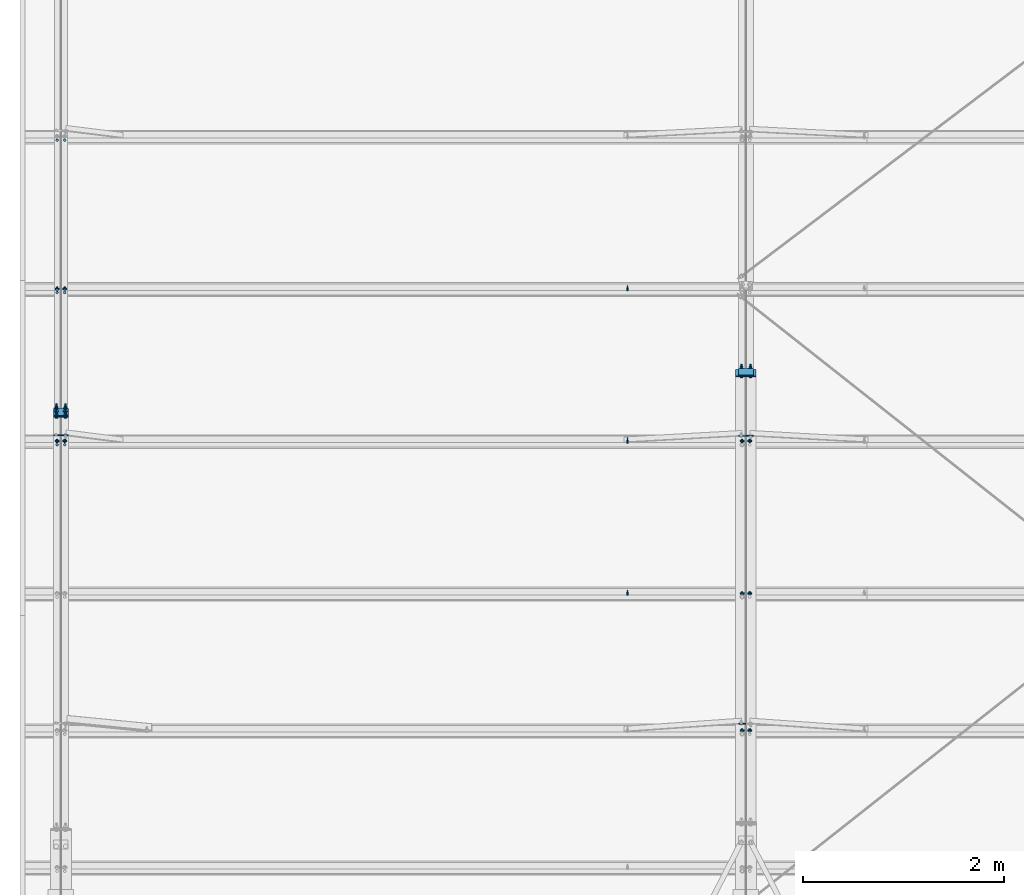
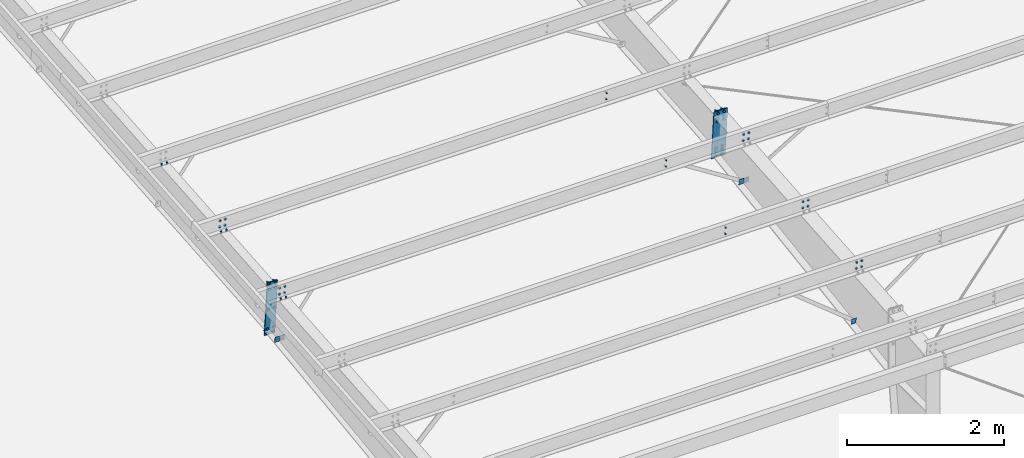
# One storey, part 64 of 185: 21 mechanical fasteners, 9 discrete accessories, 13 elements without a shape of their own.
"""IFC2X3 building model written with IfcOpenShell, lengths in millimetres."""

from ifc_helpers import new_model, si_unit, frame, origin_with_axes, origin_2d_with_axis, place, context, subcontext, project, spatial, polyline, rectangle, circle, outline, extrude, source, transform, mapped, material, type_object, element, aggregate, save


model = new_model("IFC2X3")

# Units and contexts
model_context = context("Model", 3, precision=1e-05, world=origin_with_axes())
body_context = subcontext(model_context, "Body", "Model", "MODEL_VIEW")
ifc_project = project(units=[si_unit("LENGTHUNIT", "METRE", prefix="MILLI"), si_unit("AREAUNIT", "SQUARE_METRE"), si_unit("VOLUMEUNIT", "CUBIC_METRE"), si_unit("MASSUNIT", "GRAM", prefix="KILO"), si_unit("TIMEUNIT", "SECOND"), si_unit("PLANEANGLEUNIT", "RADIAN"), si_unit("SOLIDANGLEUNIT", "STERADIAN"), si_unit("THERMODYNAMICTEMPERATUREUNIT", "DEGREE_CELSIUS"), si_unit("LUMINOUSINTENSITYUNIT", "LUMEN")], contexts=[model_context])

# Site, building, storey
site_placement = place(None, origin_with_axes())
site = spatial("IfcSite", under=ifc_project, at=site_placement, Name="Undefined", CompositionType="ELEMENT")
building_placement = place(site_placement, origin_with_axes())
building = spatial("IfcBuilding", under=site, at=building_placement, Name="Undefined", CompositionType="ELEMENT")
storey_placement = place(building_placement, origin_with_axes())
storey = spatial("IfcBuildingStorey", under=building, at=storey_placement, Name="Undefined", CompositionType="ELEMENT", Elevation=0.0)

# Assembly, mechanical fasteners
assembly_1_placement = place(storey_placement, origin_with_axes())
assembly_1 = element("IfcElementAssembly", 1, at=assembly_1_placement, inside=storey, Name="Steel Assembly", AssemblyPlace="NOTDEFINED", PredefinedType="RIGID_FRAME")
ifc_material_1 = material(Name="Undefined")
discrete_accessory_type_1 = type_object("IfcDiscreteAccessoryType", Name="Bolt assembly")
shared_shape_1 = source(origin_with_axes(), body_context, "Body", "SweptSolid", [
    extrude(circle(Radius=7.14374971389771, at=origin_2d_with_axis()), frame((0.0, -1.59000001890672, 0.0), z_axis=(0.0, 1.0, 0.0), x_axis=(1.0, 0.0, 0.0)), (0.0, 0.0, 1.0), 3.3),
    extrude(circle(Radius=13.4937496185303, at=origin_2d_with_axis()), frame((0.0, -5.5587500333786, 0.0), z_axis=(0.0, 1.0, 0.0), x_axis=(1.0, 0.0, 0.0)), (0.0, 0.0, 1.0), 4.0),
    extrude(circle(Radius=22.2250003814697, at=origin_2d_with_axis()), frame((0.0, 1.5900000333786, 0.0), z_axis=(0.0, 1.0, 0.0), x_axis=(1.0, 0.0, 0.0)), (0.0, 0.0, 1.0), 7.9),
    extrude(outline(polyline([(12.8316099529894, 0.0), (6.4158049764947, 11.1125001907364), (-6.4158049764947, 11.1125001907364), (-12.8316099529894, 0.0), (-6.4158049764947, -11.1125001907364), (6.4158049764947, -11.1125001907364), (12.8316099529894, 0.0)])), frame((0.0, 9.5275000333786, 0.0), z_axis=(0.0, 1.0, 0.0), x_axis=(1.0, 0.0, 0.0)), (0.0, 0.0, 1.0), 12.3),
])
mechanical_fastener_1_placement = place(assembly_1_placement, frame((444.500000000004, 6590.05757436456, 6594.19538193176), z_axis=(1.0, 0.0, 0.0), x_axis=(0.0, 0.0830454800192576, -0.996545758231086)))
mechanical_fastener_1 = element("IfcMechanicalFastener", 2, at=mechanical_fastener_1_placement, type_object=discrete_accessory_type_1, material=ifc_material_1, Name="Bolt assembly", NominalDiameter=12.6999998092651, NominalLength=38.0999984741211, context=body_context, shape_type="MappedRepresentation", body=[
    mapped(shared_shape_1, transform((0.0, 0.0, 0.0))),
    mapped(shared_shape_1, transform((101.599998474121, 0.0, 0.0))),
])
mechanical_fastener_2_placement = place(assembly_1_placement, frame((368.300000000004, 6590.05757436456, 6594.19538193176), z_axis=(1.0, 0.0, 0.0), x_axis=(0.0, 0.0830454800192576, -0.996545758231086)))
mechanical_fastener_2 = element("IfcMechanicalFastener", 3, at=mechanical_fastener_2_placement, type_object=discrete_accessory_type_1, material=ifc_material_1, Name="Bolt assembly", NominalDiameter=12.6999998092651, NominalLength=38.0999984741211, context=body_context, shape_type="MappedRepresentation", body=[
    mapped(shared_shape_1, transform((0.0, 0.0, 0.0))),
    mapped(shared_shape_1, transform((101.599998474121, 0.0, 0.0))),
])

assembly_2_placement = place(storey_placement, origin_with_axes())
assembly_2 = element("IfcElementAssembly", 4, at=assembly_2_placement, inside=storey, Name="Steel Assembly", AssemblyPlace="NOTDEFINED", PredefinedType="RIGID_FRAME")
mechanical_fastener_3_placement = place(assembly_2_placement, frame((368.300000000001, 5071.32183881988, 6467.63407037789), z_axis=(1.0, 0.0, 0.0), x_axis=(0.0, 0.0830454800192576, -0.996545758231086)))
mechanical_fastener_3 = element("IfcMechanicalFastener", 5, at=mechanical_fastener_3_placement, type_object=discrete_accessory_type_1, material=ifc_material_1, Name="Bolt assembly", NominalDiameter=12.6999998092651, NominalLength=38.0999984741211, context=body_context, shape_type="MappedRepresentation", body=[
    mapped(shared_shape_1, transform((0.0, 0.0, 0.0))),
    mapped(shared_shape_1, transform((101.599998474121, 0.0, 0.0))),
])
mechanical_fastener_4_placement = place(assembly_2_placement, frame((444.500000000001, 5071.32183881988, 6467.63407037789), z_axis=(1.0, 0.0, 0.0), x_axis=(0.0, 0.0830454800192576, -0.996545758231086)))
mechanical_fastener_4 = element("IfcMechanicalFastener", 6, at=mechanical_fastener_4_placement, type_object=discrete_accessory_type_1, material=ifc_material_1, Name="Bolt assembly", NominalDiameter=12.6999998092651, NominalLength=38.0999984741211, context=body_context, shape_type="MappedRepresentation", body=[
    mapped(shared_shape_1, transform((0.0, 0.0, 0.0))),
    mapped(shared_shape_1, transform((101.599998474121, 0.0, 0.0))),
])
mechanical_fastener_5_placement = place(assembly_2_placement, frame((7277.1, 5071.32183882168, 6467.63407037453), z_axis=(1.0, 0.0, 0.0), x_axis=(0.0, 0.0830454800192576, -0.996545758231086)))
mechanical_fastener_5 = element("IfcMechanicalFastener", 7, at=mechanical_fastener_5_placement, type_object=discrete_accessory_type_1, material=ifc_material_1, Name="Bolt assembly", NominalDiameter=12.6999998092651, NominalLength=38.0999984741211, context=body_context, shape_type="MappedRepresentation", body=[
    mapped(shared_shape_1, transform((0.0, 0.0, 0.0))),
    mapped(shared_shape_1, transform((101.599998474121, 0.0, 0.0))),
])

# Assembly, mechanical fastener
assembly_3_placement = place(storey_placement, origin_with_axes())
assembly_3 = element("IfcElementAssembly", 8, at=assembly_3_placement, inside=storey, Name="Steel Assembly", AssemblyPlace="NOTDEFINED", PredefinedType="RIGID_FRAME")
mechanical_fastener_6_placement = place(assembly_3_placement, frame((7200.9, 5071.32183882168, 6467.63407037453), z_axis=(1.0, 0.0, 0.0), x_axis=(0.0, 0.0830454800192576, -0.996545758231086)))
mechanical_fastener_6 = element("IfcMechanicalFastener", 9, at=mechanical_fastener_6_placement, type_object=discrete_accessory_type_1, material=ifc_material_1, Name="Bolt assembly", NominalDiameter=12.6999998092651, NominalLength=38.0999984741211, context=body_context, shape_type="MappedRepresentation", body=[
    mapped(shared_shape_1, transform((0.0, 0.0, 0.0))),
    mapped(shared_shape_1, transform((101.599998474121, 0.0, 0.0))),
])

assembly_4_placement = place(storey_placement, origin_with_axes())
assembly_4 = element("IfcElementAssembly", 10, at=assembly_4_placement, inside=storey, Name="Steel Assembly", AssemblyPlace="NOTDEFINED", PredefinedType="RIGID_FRAME")
mechanical_fastener_7_placement = place(assembly_4_placement, frame((7277.1, 3552.58610327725, 6341.07275882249), z_axis=(1.0, 0.0, 0.0), x_axis=(0.0, 0.0830454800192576, -0.996545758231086)))
mechanical_fastener_7 = element("IfcMechanicalFastener", 11, at=mechanical_fastener_7_placement, type_object=discrete_accessory_type_1, material=ifc_material_1, Name="Bolt assembly", NominalDiameter=12.6999998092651, NominalLength=38.0999984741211, context=body_context, shape_type="MappedRepresentation", body=[
    mapped(shared_shape_1, transform((0.0, 0.0, 0.0))),
    mapped(shared_shape_1, transform((101.599998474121, 0.0, 0.0))),
])
aggregate(assembly_4, [mechanical_fastener_7])

assembly_5_placement = place(storey_placement, origin_with_axes())
assembly_5 = element("IfcElementAssembly", 12, at=assembly_5_placement, inside=storey, Name="Steel Assembly", AssemblyPlace="NOTDEFINED", PredefinedType="RIGID_FRAME")
mechanical_fastener_8_placement = place(assembly_5_placement, frame((7200.9, 3552.58610327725, 6341.07275882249), z_axis=(1.0, 0.0, 0.0), x_axis=(0.0, 0.0830454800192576, -0.996545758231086)))
mechanical_fastener_8 = element("IfcMechanicalFastener", 13, at=mechanical_fastener_8_placement, type_object=discrete_accessory_type_1, material=ifc_material_1, Name="Bolt assembly", NominalDiameter=12.6999998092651, NominalLength=38.0999984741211, context=body_context, shape_type="MappedRepresentation", body=[
    mapped(shared_shape_1, transform((0.0, 0.0, 0.0))),
    mapped(shared_shape_1, transform((101.599998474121, 0.0, 0.0))),
])

assembly_6_placement = place(storey_placement, origin_with_axes())
assembly_6 = element("IfcElementAssembly", 14, at=assembly_6_placement, inside=storey, Name="Steel Assembly", AssemblyPlace="NOTDEFINED", PredefinedType="RIGID_FRAME")
mechanical_fastener_9_placement = place(assembly_6_placement, frame((7277.1, 2185.7239412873, 6227.16757842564), z_axis=(1.0, 0.0, 0.0), x_axis=(0.0, 0.0830454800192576, -0.996545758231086)))
mechanical_fastener_9 = element("IfcMechanicalFastener", 15, at=mechanical_fastener_9_placement, type_object=discrete_accessory_type_1, material=ifc_material_1, Name="Bolt assembly", NominalDiameter=12.6999998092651, NominalLength=38.0999984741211, context=body_context, shape_type="MappedRepresentation", body=[
    mapped(shared_shape_1, transform((0.0, 0.0, 0.0))),
    mapped(shared_shape_1, transform((101.599998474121, 0.0, 0.0))),
])
aggregate(assembly_6, [mechanical_fastener_9])

assembly_7_placement = place(storey_placement, origin_with_axes())
assembly_7 = element("IfcElementAssembly", 16, at=assembly_7_placement, inside=storey, Name="Steel Assembly", AssemblyPlace="NOTDEFINED", PredefinedType="RIGID_FRAME")
mechanical_fastener_10_placement = place(assembly_7_placement, frame((7200.9, 2185.7239412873, 6227.16757842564), z_axis=(1.0, 0.0, 0.0), x_axis=(0.0, 0.0830454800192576, -0.996545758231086)))
mechanical_fastener_10 = element("IfcMechanicalFastener", 17, at=mechanical_fastener_10_placement, type_object=discrete_accessory_type_1, material=ifc_material_1, Name="Bolt assembly", NominalDiameter=12.6999998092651, NominalLength=38.0999984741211, context=body_context, shape_type="MappedRepresentation", body=[
    mapped(shared_shape_1, transform((0.0, 0.0, 0.0))),
    mapped(shared_shape_1, transform((101.599998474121, 0.0, 0.0))),
])
aggregate(assembly_7, [mechanical_fastener_10])

# Assembly, discrete accessories
assembly_8_placement = place(storey_placement, origin_with_axes())
assembly_8 = element("IfcElementAssembly", 18, at=assembly_8_placement, inside=storey, Name="Steel Assembly", AssemblyPlace="NOTDEFINED", PredefinedType="RIGID_FRAME")
ifc_material_2 = material(Name="STEEL/55")
discrete_accessory_type_2 = type_object("IfcDiscreteAccessoryType", Name="FLANGE BRACE FLIP")
discrete_accessory_1_placement = place(assembly_8_placement, frame((408.781250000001, 5139.3042512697, 5631.27807732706), z_axis=(0.0, -0.0830454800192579, 0.996545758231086), x_axis=(1.0, 0.0, 0.0)))
discrete_accessory_1 = element("IfcDiscreteAccessory", 19, at=discrete_accessory_1_placement, type_object=discrete_accessory_type_2, material=ifc_material_2, Name="FLANGE BRACE FLIP", ObjectType="PL1/8\"X2 3/4\"", context=body_context, shape_type="SweptSolid", body=[
    extrude(rectangle(XDim=3.416, YDim=85.725, at=origin_2d_with_axis()), frame((69.8499999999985, 0.0, 0.0), z_axis=(-1.0, 0.0, 0.0), x_axis=(0.0, -1.0, 0.0)), (0.0, 0.0, 1.0), 69.9),
])
discrete_accessory_2_placement = place(assembly_8_placement, frame((404.018750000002, 5139.3042512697, 5631.27807732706), z_axis=(0.0, -0.0830454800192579, 0.996545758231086), x_axis=(-1.0, 0.0, 0.0)))
discrete_accessory_2 = element("IfcDiscreteAccessory", 20, at=discrete_accessory_2_placement, type_object=discrete_accessory_type_2, material=ifc_material_2, Name="FLANGE BRACE FLIP", ObjectType="PL1/8\"X2 3/4\"", context=body_context, shape_type="SweptSolid", body=[
    extrude(rectangle(XDim=3.416, YDim=85.725, at=origin_2d_with_axis()), frame((69.8499999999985, 0.0, 0.0), z_axis=(-1.0, 0.0, 0.0), x_axis=(0.0, -1.0, 0.0)), (0.0, 0.0, 1.0), 69.9),
])

assembly_9_placement = place(storey_placement, origin_with_axes())
assembly_9 = element("IfcElementAssembly", 21, at=assembly_9_placement, inside=storey, Name="Steel Assembly", AssemblyPlace="NOTDEFINED", PredefinedType="RIGID_FRAME")
discrete_accessory_3_placement = place(assembly_9_placement, frame((7241.381, 5133.65232140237, 5699.10123572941), z_axis=(0.0, -0.0830454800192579, 0.996545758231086), x_axis=(1.0, 0.0, 0.0)))
discrete_accessory_3 = element("IfcDiscreteAccessory", 22, at=discrete_accessory_3_placement, type_object=discrete_accessory_type_2, material=ifc_material_2, Name="FLANGE BRACE FLIP", ObjectType="PL1/8\"X2 3/4\"", context=body_context, shape_type="SweptSolid", body=[
    extrude(rectangle(XDim=3.416, YDim=85.725, at=origin_2d_with_axis()), frame((69.8499999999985, 0.0, 0.0), z_axis=(-1.0, 0.0, 0.0), x_axis=(0.0, -1.0, 0.0)), (0.0, 0.0, 1.0), 69.9),
])
discrete_accessory_4_placement = place(assembly_9_placement, frame((7236.619, 5133.65232140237, 5699.10123572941), z_axis=(0.0, -0.0830454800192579, 0.996545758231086), x_axis=(-1.0, 0.0, 0.0)))
discrete_accessory_4 = element("IfcDiscreteAccessory", 23, at=discrete_accessory_4_placement, type_object=discrete_accessory_type_2, material=ifc_material_2, Name="FLANGE BRACE FLIP", ObjectType="PL1/8\"X2 3/4\"", context=body_context, shape_type="SweptSolid", body=[
    extrude(rectangle(XDim=3.416, YDim=85.725, at=origin_2d_with_axis()), frame((69.8499999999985, 0.0, 0.0), z_axis=(-1.0, 0.0, 0.0), x_axis=(0.0, -1.0, 0.0)), (0.0, 0.0, 1.0), 69.9),
])
discrete_accessory_5_placement = place(assembly_9_placement, frame((7236.619, 2264.17630960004, 5265.17211501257), z_axis=(0.0, -0.0830454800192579, 0.996545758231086), x_axis=(-1.0, 0.0, 0.0)))
discrete_accessory_5 = element("IfcDiscreteAccessory", 24, at=discrete_accessory_5_placement, type_object=discrete_accessory_type_2, material=ifc_material_2, Name="FLANGE BRACE FLIP", ObjectType="PL1/8\"X2 3/4\"", context=body_context, shape_type="SweptSolid", body=[
    extrude(rectangle(XDim=3.416, YDim=85.725, at=origin_2d_with_axis()), frame((69.8499999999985, 0.0, 0.0), z_axis=(-1.0, 0.0, 0.0), x_axis=(0.0, -1.0, 0.0)), (0.0, 0.0, 1.0), 69.9),
])

# Assembly, mechanical fastener
assembly_10_placement = place(storey_placement, origin_with_axes())
assembly_10 = element("IfcElementAssembly", 25, at=assembly_10_placement, inside=storey, Name="Steel Assembly", AssemblyPlace="NOTDEFINED", PredefinedType="RIGID_FRAME")
shared_shape_2 = source(origin_with_axes(), body_context, "Body", "SweptSolid", [
    extrude(circle(Radius=7.14374971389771, at=origin_2d_with_axis()), frame((0.0, -1.69000003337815, 0.0), z_axis=(0.0, 1.0, 0.0), x_axis=(1.0, 0.0, 0.0)), (0.0, 0.0, 1.0), 3.3),
    extrude(circle(Radius=7.14374971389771, at=origin_2d_with_axis()), frame((0.0, -1.4900000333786, 0.0), z_axis=(0.0, 1.0, 0.0), x_axis=(1.0, 0.0, 0.0)), (0.0, 0.0, 1.0), 3.2),
    extrude(outline(polyline([(10.9985221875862, 0.0), (5.4992610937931, 9.52499961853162), (-5.4992610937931, 9.52499961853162), (-10.9985221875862, 0.0), (-5.4992610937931, -9.52499961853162), (5.4992610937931, -9.52499961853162), (10.9985221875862, 0.0)])), frame((0.0, -11.1149996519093, 0.0), z_axis=(0.0, 1.0, 0.0), x_axis=(1.0, 0.0, 0.0)), (0.0, 0.0, 1.0), 9.5),
    extrude(circle(Radius=6.34999990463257, at=origin_2d_with_axis()), frame((0.0, -1.59000001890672, 0.0), z_axis=(0.0, 1.0, 0.0), x_axis=(1.0, 0.0, 0.0)), (0.0, 0.0, 1.0), 38.1),
    extrude(outline(polyline([(12.8316099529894, 0.0), (6.4158049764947, 11.1125001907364), (-6.4158049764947, 11.1125001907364), (-12.8316099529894, 0.0), (-6.4158049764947, -11.1125001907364), (6.4158049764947, -11.1125001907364), (12.8316099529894, 0.0)])), frame((0.0, 1.5900000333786, 0.0), z_axis=(0.0, 1.0, 0.0), x_axis=(1.0, 0.0, 0.0)), (0.0, 0.0, 1.0), 12.3),
])
mechanical_fastener_11_placement = place(assembly_10_placement, frame((6057.9, 6590.05757436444, 6594.19538192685), z_axis=(1.0, 0.0, 0.0), x_axis=(0.0, 0.0830454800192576, -0.996545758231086)))
mechanical_fastener_11 = element("IfcMechanicalFastener", 26, at=mechanical_fastener_11_placement, type_object=discrete_accessory_type_1, material=ifc_material_1, Name="Bolt assembly", NominalDiameter=12.6999998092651, NominalLength=38.0999984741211, context=body_context, shape_type="MappedRepresentation", body=[
    mapped(shared_shape_2, transform((0.0, 0.0, 0.0))),
    mapped(shared_shape_2, transform((101.599998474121, 0.0, 0.0))),
])
aggregate(assembly_10, [mechanical_fastener_11])

# Mechanical fastener
mechanical_fastener_12_placement = place(assembly_3_placement, frame((6057.9, 5071.32183882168, 6467.63407037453), z_axis=(1.0, 0.0, 0.0), x_axis=(0.0, 0.0830454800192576, -0.996545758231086)))
mechanical_fastener_12 = element("IfcMechanicalFastener", 27, at=mechanical_fastener_12_placement, type_object=discrete_accessory_type_1, material=ifc_material_1, Name="Bolt assembly", NominalDiameter=12.6999998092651, NominalLength=38.0999984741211, context=body_context, shape_type="MappedRepresentation", body=[
    mapped(shared_shape_2, transform((0.0, 0.0, 0.0))),
    mapped(shared_shape_2, transform((101.599998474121, 0.0, 0.0))),
])

aggregate(assembly_3, [mechanical_fastener_6, mechanical_fastener_12])

mechanical_fastener_13_placement = place(assembly_5_placement, frame((6057.9, 3552.58610327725, 6341.07275882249), z_axis=(1.0, 0.0, 0.0), x_axis=(0.0, 0.0830454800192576, -0.996545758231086)))
mechanical_fastener_13 = element("IfcMechanicalFastener", 28, at=mechanical_fastener_13_placement, type_object=discrete_accessory_type_1, material=ifc_material_1, Name="Bolt assembly", NominalDiameter=12.6999998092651, NominalLength=38.0999984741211, context=body_context, shape_type="MappedRepresentation", body=[
    mapped(shared_shape_2, transform((0.0, 0.0, 0.0))),
    mapped(shared_shape_2, transform((101.599998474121, 0.0, 0.0))),
])

aggregate(assembly_5, [mechanical_fastener_8, mechanical_fastener_13])

shared_shape_3 = source(origin_with_axes(), body_context, "Body", "SweptSolid", [
    extrude(circle(Radius=7.14374971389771, at=origin_2d_with_axis()), frame((0.0, -1.68991444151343, 0.0), z_axis=(0.0, 1.0, 0.0), x_axis=(1.0, 0.0, 0.0)), (0.0, 0.0, 1.0), 8.0),
    extrude(circle(Radius=7.14374971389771, at=origin_2d_with_axis()), frame((0.0, -3.08000006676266, 0.0), z_axis=(0.0, 1.0, 0.0), x_axis=(1.0, 0.0, 0.0)), (0.0, 0.0, 1.0), 3.2),
    extrude(outline(polyline([(10.9985221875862, 0.0), (5.4992610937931, 9.52499961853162), (-5.4992610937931, 9.52499961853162), (-10.9985221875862, 0.0), (-5.4992610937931, -9.52499961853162), (5.4992610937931, -9.52499961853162), (10.9985221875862, 0.0)])), frame((0.0, -16.6737496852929, 0.0), z_axis=(0.0, 1.0, 0.0), x_axis=(1.0, 0.0, 0.0)), (0.0, 0.0, 1.0), 9.5),
    extrude(circle(Radius=6.34999990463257, at=origin_2d_with_axis()), frame((0.0, -7.14875006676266, 0.0), z_axis=(0.0, 1.0, 0.0), x_axis=(1.0, 0.0, 0.0)), (0.0, 0.0, 1.0), 38.1),
    extrude(circle(Radius=13.4937496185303, at=origin_2d_with_axis()), frame((0.0, -7.14875006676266, 0.0), z_axis=(0.0, 1.0, 0.0), x_axis=(1.0, 0.0, 0.0)), (0.0, 0.0, 1.0), 4.0),
    extrude(outline(polyline([(12.8316099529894, 0.0), (6.4158049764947, 11.1125001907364), (-6.4158049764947, 11.1125001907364), (-12.8316099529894, 0.0), (-6.4158049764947, -11.1125001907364), (6.4158049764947, -11.1125001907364), (12.8316099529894, 0.0)])), frame((0.0, 6.28408555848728, 0.0), z_axis=(0.0, 1.0, 0.0), x_axis=(1.0, 0.0, 0.0)), (0.0, 0.0, 1.0), 12.3),
])
mechanical_fastener_14_placement = place(assembly_2_placement, frame((406.400000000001, 5046.00957656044, 6312.59646403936), z_axis=(1.0, 0.0, 0.0), x_axis=(0.0, -0.996545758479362, -0.0830454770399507)))
mechanical_fastener_14 = element("IfcMechanicalFastener", 29, at=mechanical_fastener_14_placement, type_object=discrete_accessory_type_1, material=ifc_material_1, Name="Bolt assembly", NominalDiameter=12.6999998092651, NominalLength=38.0999984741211, context=body_context, shape_type="MappedRepresentation", body=[
    mapped(shared_shape_3, transform((0.0, 0.0, -38.0999984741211))),
    mapped(shared_shape_3, transform((0.0, 0.0, 38.0999984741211))),
])

aggregate(assembly_2, [mechanical_fastener_14, mechanical_fastener_3, mechanical_fastener_4, mechanical_fastener_5])

shared_shape_4 = source(origin_with_axes(), body_context, "Body", "SweptSolid", [
    extrude(circle(Radius=10.3187494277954, at=origin_2d_with_axis()), frame((0.0, -0.1, 0.0), z_axis=(0.0, 1.0, 0.0), x_axis=(1.0, 0.0, 0.0)), (0.0, 0.0, 1.0), 9.6),
    extrude(circle(Radius=10.3187494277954, at=origin_2d_with_axis()), frame((0.0, -9.55200000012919, 0.0), z_axis=(0.0, 1.0, 0.0), x_axis=(1.0, 0.0, 0.0)), (0.0, 0.0, 1.0), 9.7),
    extrude(outline(polyline([(18.3308710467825, 0.0), (9.16543552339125, 15.8750000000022), (-9.16543552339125, 15.8750000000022), (-18.3308710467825, 0.0), (-9.16543552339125, -15.8750000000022), (9.16543552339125, -15.8750000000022), (18.3308710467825, 0.0)])), frame((0.0, -21.5582500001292, 0.0), z_axis=(0.0, 1.0, 0.0), x_axis=(1.0, 0.0, 0.0)), (0.0, 0.0, 1.0), 11.9),
    extrude(circle(Radius=9.52499961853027, at=origin_2d_with_axis()), frame((0.0, -9.65200000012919, 0.0), z_axis=(0.0, 1.0, 0.0), x_axis=(1.0, 0.0, 0.0)), (0.0, 0.0, 1.0), 69.8),
    extrude(circle(Radius=22.2250003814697, at=origin_2d_with_axis()), frame((0.0, 9.52499999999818, 0.0), z_axis=(0.0, 1.0, 0.0), x_axis=(1.0, 0.0, 0.0)), (0.0, 0.0, 1.0), 7.9),
    extrude(outline(polyline([(18.3308710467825, 0.0), (9.16543552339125, 15.8750000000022), (-9.16543552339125, 15.8750000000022), (-18.3308710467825, 0.0), (-9.16543552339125, -15.8750000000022), (9.16543552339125, -15.8750000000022), (18.3308710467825, 0.0)])), frame((0.0, 17.4624999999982, 0.0), z_axis=(0.0, 1.0, 0.0), x_axis=(1.0, 0.0, 0.0)), (0.0, 0.0, 1.0), 19.0),
])
mechanical_fastener_15_placement = place(assembly_8_placement, frame((406.400000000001, 5396.76762445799, 5577.18504530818), z_axis=(-1.0, 0.0, 0.0), x_axis=(0.0, -0.0830454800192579, 0.996545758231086)))
mechanical_fastener_15 = element("IfcMechanicalFastener", 30, at=mechanical_fastener_15_placement, type_object=discrete_accessory_type_1, material=ifc_material_1, Name="Bolt assembly", NominalDiameter=19.0499992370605, NominalLength=69.8499984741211, context=body_context, shape_type="MappedRepresentation", body=[
    mapped(shared_shape_4, transform((0.0, 0.0, -44.4500007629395))),
    mapped(shared_shape_4, transform((76.1999969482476, 0.0, -44.4500007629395))),
    mapped(shared_shape_4, transform((0.0, 0.0, 44.4500007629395))),
    mapped(shared_shape_4, transform((76.1999969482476, 0.0, 44.4500007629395))),
])

mechanical_fastener_16_placement = place(assembly_8_placement, frame((406.400000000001, 5330.32293589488, 6374.5213064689), z_axis=(1.0, 0.0, 0.0), x_axis=(0.0, 0.0830454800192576, -0.996545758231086)))
mechanical_fastener_16 = element("IfcMechanicalFastener", 31, at=mechanical_fastener_16_placement, type_object=discrete_accessory_type_1, material=ifc_material_1, Name="Bolt assembly", NominalDiameter=19.0499992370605, NominalLength=69.8499984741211, context=body_context, shape_type="MappedRepresentation", body=[
    mapped(shared_shape_4, transform((0.0, 0.0, -44.4500007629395))),
    mapped(shared_shape_4, transform((76.1999969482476, 0.0, -44.4500007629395))),
    mapped(shared_shape_4, transform((0.0, 0.0, 44.4500007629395))),
    mapped(shared_shape_4, transform((76.1999969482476, 0.0, 44.4500007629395))),
])

shared_shape_5 = source(origin_with_axes(), body_context, "Body", "SweptSolid", [
    extrude(circle(Radius=10.3187494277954, at=origin_2d_with_axis()), frame((0.0, -0.0856426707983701, 0.0), z_axis=(0.0, 1.0, 0.0), x_axis=(1.0, 0.0, 0.0)), (0.0, 0.0, 1.0), 9.6),
    extrude(circle(Radius=10.3187494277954, at=origin_2d_with_axis()), frame((0.0, -9.53764267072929, 0.0), z_axis=(0.0, 1.0, 0.0), x_axis=(1.0, 0.0, 0.0)), (0.0, 0.0, 1.0), 9.7),
    extrude(outline(polyline([(18.3308710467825, 0.0), (9.16543552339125, 15.8750000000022), (-9.16543552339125, 15.8750000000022), (-18.3308710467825, 0.0), (-9.16543552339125, -15.8750000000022), (9.16543552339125, -15.8750000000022), (18.3308710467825, 0.0)])), frame((0.0, -21.5438926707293, 0.0), z_axis=(0.0, 1.0, 0.0), x_axis=(1.0, 0.0, 0.0)), (0.0, 0.0, 1.0), 11.9),
    extrude(circle(Radius=9.52499961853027, at=origin_2d_with_axis()), frame((0.0, -9.63764267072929, 0.0), z_axis=(0.0, 1.0, 0.0), x_axis=(1.0, 0.0, 0.0)), (0.0, 0.0, 1.0), 69.8),
    extrude(circle(Radius=22.2250003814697, at=origin_2d_with_axis()), frame((0.0, 9.53935732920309, 0.0), z_axis=(0.0, 1.0, 0.0), x_axis=(1.0, 0.0, 0.0)), (0.0, 0.0, 1.0), 7.9),
    extrude(outline(polyline([(18.3308710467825, 0.0), (9.16543552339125, 15.8750000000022), (-9.16543552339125, 15.8750000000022), (-18.3308710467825, 0.0), (-9.16543552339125, -15.8750000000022), (9.16543552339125, -15.8750000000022), (18.3308710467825, 0.0)])), frame((0.0, 17.4768573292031, 0.0), z_axis=(0.0, 1.0, 0.0), x_axis=(1.0, 0.0, 0.0)), (0.0, 0.0, 1.0), 19.0),
])
mechanical_fastener_17_placement = place(assembly_8_placement, frame((406.400000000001, 5363.53097244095, 5975.85198357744), z_axis=(1.0, 0.0, 0.0), x_axis=(0.0, 0.0830454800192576, -0.996545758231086)))
mechanical_fastener_17 = element("IfcMechanicalFastener", 32, at=mechanical_fastener_17_placement, type_object=discrete_accessory_type_1, material=ifc_material_1, Name="Bolt assembly", NominalDiameter=19.0499992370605, NominalLength=69.8499984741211, context=body_context, shape_type="MappedRepresentation", body=[
    mapped(shared_shape_5, transform((0.0, 0.0, -44.4500007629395))),
    mapped(shared_shape_5, transform((0.0, 0.0, 44.4500007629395))),
])

# Assembly, mechanical fastener
assembly_11_placement = place(storey_placement, origin_with_axes())
assembly_11 = element("IfcElementAssembly", 33, at=assembly_11_placement, inside=storey, Name="Steel Assembly", AssemblyPlace="NOTDEFINED", PredefinedType="RIGID_FRAME")
shared_shape_6 = source(origin_with_axes(), body_context, "Body", "SweptSolid", [
    extrude(circle(Radius=7.14374971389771, at=origin_2d_with_axis()), frame((0.0, -0.1, 0.0), z_axis=(0.0, 1.0, 0.0), x_axis=(1.0, 0.0, 0.0)), (0.0, 0.0, 1.0), 6.5),
    extrude(circle(Radius=7.14374971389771, at=origin_2d_with_axis()), frame((0.0, -3.08000006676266, 0.0), z_axis=(0.0, 1.0, 0.0), x_axis=(1.0, 0.0, 0.0)), (0.0, 0.0, 1.0), 3.2),
    extrude(outline(polyline([(10.9985221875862, 0.0), (5.4992610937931, 9.52499961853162), (-5.4992610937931, 9.52499961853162), (-10.9985221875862, 0.0), (-5.4992610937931, -9.52499961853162), (5.4992610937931, -9.52499961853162), (10.9985221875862, 0.0)])), frame((0.0, -16.6737496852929, 0.0), z_axis=(0.0, 1.0, 0.0), x_axis=(1.0, 0.0, 0.0)), (0.0, 0.0, 1.0), 9.5),
    extrude(circle(Radius=6.34999990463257, at=origin_2d_with_axis()), frame((0.0, -7.14875006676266, 0.0), z_axis=(0.0, 1.0, 0.0), x_axis=(1.0, 0.0, 0.0)), (0.0, 0.0, 1.0), 38.1),
    extrude(circle(Radius=13.4937496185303, at=origin_2d_with_axis()), frame((0.0, -7.14875006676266, 0.0), z_axis=(0.0, 1.0, 0.0), x_axis=(1.0, 0.0, 0.0)), (0.0, 0.0, 1.0), 4.0),
    extrude(outline(polyline([(12.8316099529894, 0.0), (6.4158049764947, 11.1125001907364), (-6.4158049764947, 11.1125001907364), (-12.8316099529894, 0.0), (-6.4158049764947, -11.1125001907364), (6.4158049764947, -11.1125001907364), (12.8316099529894, 0.0)])), frame((0.0, 6.35000000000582, 0.0), z_axis=(0.0, 1.0, 0.0), x_axis=(1.0, 0.0, 0.0)), (0.0, 0.0, 1.0), 12.3),
])
mechanical_fastener_18_placement = place(assembly_11_placement, frame((406.400000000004, 8083.48104764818, 6565.71908714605), z_axis=(1.0, 0.0, 0.0), x_axis=(0.0, -0.996545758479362, -0.0830454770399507)))
mechanical_fastener_18 = element("IfcMechanicalFastener", 34, at=mechanical_fastener_18_placement, type_object=discrete_accessory_type_1, material=ifc_material_1, Name="Bolt assembly", NominalDiameter=12.6999998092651, NominalLength=38.0999984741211, context=body_context, shape_type="MappedRepresentation", body=[
    mapped(shared_shape_6, transform((0.0, 0.0, -38.0999984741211))),
    mapped(shared_shape_6, transform((0.0, 0.0, 38.0999984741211))),
])
aggregate(assembly_11, [mechanical_fastener_18])

# Mechanical fastener
mechanical_fastener_19_placement = place(assembly_1_placement, frame((406.400000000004, 6564.74531210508, 6439.15777559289), z_axis=(1.0, 0.0, 0.0), x_axis=(0.0, -0.996545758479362, -0.0830454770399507)))
mechanical_fastener_19 = element("IfcMechanicalFastener", 35, at=mechanical_fastener_19_placement, type_object=discrete_accessory_type_1, material=ifc_material_1, Name="Bolt assembly", NominalDiameter=12.6999998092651, NominalLength=38.0999984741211, context=body_context, shape_type="MappedRepresentation", body=[
    mapped(shared_shape_6, transform((0.0, 0.0, -38.0999984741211))),
    mapped(shared_shape_6, transform((0.0, 0.0, 38.0999984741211))),
])

aggregate(assembly_1, [mechanical_fastener_19, mechanical_fastener_1, mechanical_fastener_2])

# Assembly, discrete accessory
assembly_12_placement = place(storey_placement, origin_with_axes())
assembly_12 = element("IfcElementAssembly", 36, at=assembly_12_placement, inside=storey, Name="Steel Assembly", AssemblyPlace="NOTDEFINED", PredefinedType="RIGID_FRAME")
discrete_accessory_type_3 = type_object("IfcDiscreteAccessoryType", Name="Start Splice Plate")
discrete_accessory_6_placement = place(assembly_12_placement, frame((406.400000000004, 5332.43229133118, 6406.55713535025), z_axis=(1.0, 0.0, 0.0), x_axis=(0.0, 0.0830454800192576, -0.996545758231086)))
discrete_accessory_6 = element("IfcDiscreteAccessory", 37, at=discrete_accessory_6_placement, type_object=discrete_accessory_type_3, material=ifc_material_2, Name="Start Splice Plate", ObjectType="FL3/8\"X6\"", context=body_context, shape_type="SweptSolid", body=[
    extrude(rectangle(XDim=9.525, YDim=152.4, at=origin_2d_with_axis()), frame((863.599993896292, 1.19848574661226e-14, 0.0), z_axis=(-1.0, 0.0, 0.0), x_axis=(0.0, -1.0, 0.0)), (0.0, 0.0, 1.0), 863.6),
])
aggregate(assembly_12, [discrete_accessory_6])

assembly_13_placement = place(storey_placement, origin_with_axes())
assembly_13 = element("IfcElementAssembly", 38, at=assembly_13_placement, inside=storey, Name="Steel Assembly", AssemblyPlace="NOTDEFINED", PredefinedType="RIGID_FRAME")
discrete_accessory_7_placement = place(assembly_13_placement, frame((7239.0, 5736.98021246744, 6441.84972626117), z_axis=(1.0, 0.0, 0.0), x_axis=(0.0, 0.0830454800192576, -0.996545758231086)))
discrete_accessory_7 = element("IfcDiscreteAccessory", 39, at=discrete_accessory_7_placement, type_object=discrete_accessory_type_3, material=ifc_material_2, Name="Start Splice Plate", ObjectType="PL3/8\"X6\"", context=body_context, shape_type="SweptSolid", body=[
    extrude(rectangle(XDim=9.652, YDim=152.4, at=origin_2d_with_axis()), frame((768.349996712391, 0.0, 0.0), z_axis=(-1.0, 0.0, 0.0), x_axis=(0.0, -1.0, 0.0)), (0.0, 0.0, 1.0), 768.3),
])
aggregate(assembly_13, [discrete_accessory_7])

# Discrete accessory
discrete_accessory_type_4 = type_object("IfcDiscreteAccessoryType", Name="End Splice Plate")
discrete_accessory_8_placement = place(assembly_8_placement, frame((406.400000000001, 5322.87691232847, 6405.76085376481), z_axis=(1.0, 0.0, 0.0), x_axis=(0.0, 0.0830454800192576, -0.996545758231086)))
discrete_accessory_8 = element("IfcDiscreteAccessory", 40, at=discrete_accessory_8_placement, type_object=discrete_accessory_type_4, material=ifc_material_2, Name="End Splice Plate", ObjectType="PL3/8\"X6\"", context=body_context, shape_type="SweptSolid", body=[
    extrude(rectangle(XDim=9.652, YDim=152.4, at=origin_2d_with_axis()), frame((863.599993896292, 1.19848574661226e-14, 0.0), z_axis=(-1.0, 0.0, 0.0), x_axis=(0.0, -1.0, 0.0)), (0.0, 0.0, 1.0), 863.6),
])

aggregate(assembly_8, [mechanical_fastener_17, discrete_accessory_1, discrete_accessory_2, mechanical_fastener_15, mechanical_fastener_16, discrete_accessory_8])

discrete_accessory_9_placement = place(assembly_9_placement, frame((7239.0, 5725.84281707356, 6440.9216099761), z_axis=(1.0, 0.0, 0.0), x_axis=(0.0, 0.0830454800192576, -0.996545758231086)))
discrete_accessory_9 = element("IfcDiscreteAccessory", 41, at=discrete_accessory_9_placement, type_object=discrete_accessory_type_4, material=ifc_material_2, Name="End Splice Plate", ObjectType="FL1/2\"X8\"", context=body_context, shape_type="SweptSolid", body=[
    extrude(rectangle(XDim=12.7, YDim=203.2, at=origin_2d_with_axis()), frame((768.349996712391, 0.0, 0.0), z_axis=(-1.0, 0.0, 0.0), x_axis=(0.0, -1.0, 0.0)), (0.0, 0.0, 1.0), 768.3),
])

# Mechanical fastener
shared_shape_7 = source(origin_with_axes(), body_context, "Body", "SweptSolid", [
    extrude(circle(Radius=10.3187494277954, at=origin_2d_with_axis()), frame((0.0, -0.1, 0.0), z_axis=(0.0, 1.0, 0.0), x_axis=(1.0, 0.0, 0.0)), (0.0, 0.0, 1.0), 9.8),
    extrude(circle(Radius=10.3187494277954, at=origin_2d_with_axis()), frame((0.0, -12.5999999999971, 0.0), z_axis=(0.0, 1.0, 0.0), x_axis=(1.0, 0.0, 0.0)), (0.0, 0.0, 1.0), 12.7),
    extrude(outline(polyline([(18.3308710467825, 0.0), (9.16543552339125, 15.8750000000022), (-9.16543552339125, 15.8750000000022), (-18.3308710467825, 0.0), (-9.16543552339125, -15.8750000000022), (9.16543552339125, -15.8750000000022), (18.3308710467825, 0.0)])), frame((0.0, -24.6062499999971, 0.0), z_axis=(0.0, 1.0, 0.0), x_axis=(1.0, 0.0, 0.0)), (0.0, 0.0, 1.0), 11.9),
    extrude(circle(Radius=9.52499961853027, at=origin_2d_with_axis()), frame((0.0, -12.6999999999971, 0.0), z_axis=(0.0, 1.0, 0.0), x_axis=(1.0, 0.0, 0.0)), (0.0, 0.0, 1.0), 69.8),
    extrude(circle(Radius=22.2250003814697, at=origin_2d_with_axis()), frame((0.0, 9.65200009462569, 0.0), z_axis=(0.0, 1.0, 0.0), x_axis=(1.0, 0.0, 0.0)), (0.0, 0.0, 1.0), 7.9),
    extrude(outline(polyline([(18.3308710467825, 0.0), (9.16543552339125, 15.8750000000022), (-9.16543552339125, 15.8750000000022), (-18.3308710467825, 0.0), (-9.16543552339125, -15.8750000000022), (9.16543552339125, -15.8750000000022), (18.3308710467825, 0.0)])), frame((0.0, 17.5895000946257, 0.0), z_axis=(0.0, 1.0, 0.0), x_axis=(1.0, 0.0, 0.0)), (0.0, 0.0, 1.0), 19.0),
])
mechanical_fastener_20_placement = place(assembly_9_placement, frame((7239.0, 5793.342183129, 5707.39334435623), z_axis=(-1.0, 0.0, 0.0), x_axis=(0.0, -0.0830454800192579, 0.996545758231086)))
mechanical_fastener_20 = element("IfcMechanicalFastener", 42, at=mechanical_fastener_20_placement, type_object=discrete_accessory_type_1, material=ifc_material_1, Name="Bolt assembly", NominalDiameter=19.0499992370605, NominalLength=69.8499984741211, context=body_context, shape_type="MappedRepresentation", body=[
    mapped(shared_shape_7, transform((0.0, 0.0, -44.4500007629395))),
    mapped(shared_shape_7, transform((79.3750000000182, 6.18456397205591e-11, -44.4500007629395))),
    mapped(shared_shape_7, transform((136.524993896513, 1.0550138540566e-10, -44.4500007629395))),
    mapped(shared_shape_7, transform((0.0, 0.0, 44.4500007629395))),
    mapped(shared_shape_7, transform((79.3750000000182, 6.18456397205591e-11, 44.4500007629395))),
    mapped(shared_shape_7, transform((136.524993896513, 1.0550138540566e-10, 44.4500007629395))),
])

mechanical_fastener_21_placement = place(assembly_9_placement, frame((7239.0, 5734.80757653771, 6409.80862204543), z_axis=(1.0, 0.0, 0.0), x_axis=(0.0, 0.0830454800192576, -0.996545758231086)))
mechanical_fastener_21 = element("IfcMechanicalFastener", 43, at=mechanical_fastener_21_placement, type_object=discrete_accessory_type_1, material=ifc_material_1, Name="Bolt assembly", NominalDiameter=19.0499992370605, NominalLength=69.8499984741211, context=body_context, shape_type="MappedRepresentation", body=[
    mapped(shared_shape_7, transform((0.0, 0.0, -44.4500007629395))),
    mapped(shared_shape_7, transform((79.3750000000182, 6.18456397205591e-11, -44.4500007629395))),
    mapped(shared_shape_7, transform((136.524993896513, 1.0550138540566e-10, -44.4500007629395))),
    mapped(shared_shape_7, transform((0.0, 0.0, 44.4500007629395))),
    mapped(shared_shape_7, transform((79.3750000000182, 6.18456397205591e-11, 44.4500007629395))),
    mapped(shared_shape_7, transform((136.524993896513, 1.0550138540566e-10, 44.4500007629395))),
])

aggregate(assembly_9, [discrete_accessory_3, discrete_accessory_4, discrete_accessory_5, mechanical_fastener_20, mechanical_fastener_21, discrete_accessory_9])

save(model, "model.ifc")
